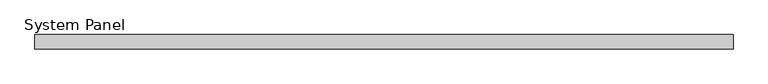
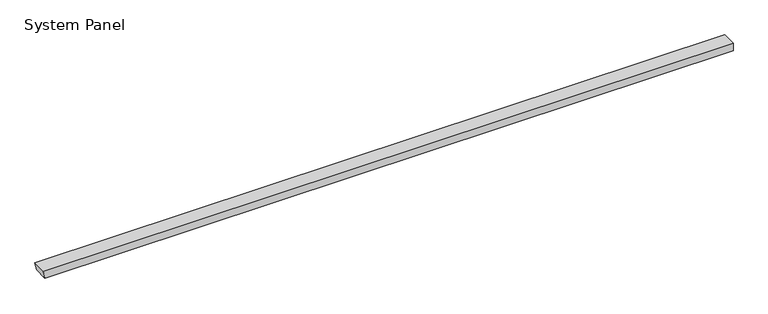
"""IFC4 building model written with IfcOpenShell, lengths in millimetres: plate geometry, System Panel : InsulWall_140mm_Plain_Surfmist."""

from ifc_helpers import new_model, si_unit, frame, origin, place, context, project, spatial, polyline, outline, extrude, source, transform, mapped, element, save


def system_panel_2a37176b(model_context):
    return source(origin(), model_context, "Body", "SweptSolid", [
        extrude(outline(polyline([(0.0, -3377.6149856), (0.0, 3395.0), (79.9704237, 3395.0), (79.9704237, -3395.0), (0.0, -3377.6149856)])), frame((0.0, -140.0, 0.0), z_axis=(0.0, 1.0, 0.0), x_axis=(0.0, 0.0, 1.0)), (0.0, 0.0, 1.0), 140.0),
    ])


if __name__ == "__main__":
    model = new_model("IFC4")
    model_context = context("Model", 3, world=origin())
    ifc_project = project(units=[si_unit("LENGTHUNIT", "METRE", prefix="MILLI")], contexts=[model_context])
    site = spatial("IfcSite", under=ifc_project)
    building = spatial("IfcBuilding", under=site)
    placement = place(None, origin())
    system_panel_shape = system_panel_2a37176b(model_context)
    element("IfcPlate", 1, ObjectType="System Panel : InsulWall_140mm_Plain_Surfmist", at=placement, inside=building, context=model_context, shape_type="MappedRepresentation", body=[
        mapped(system_panel_shape, transform((0.0, 0.0, 0.0), x_axis=(1.0, 0.0, 0.0), y_axis=(0.0, 1.0, 0.0), z_axis=(0.0, 0.0, 1.0))),
    ])
    save(model, "model.ifc")
